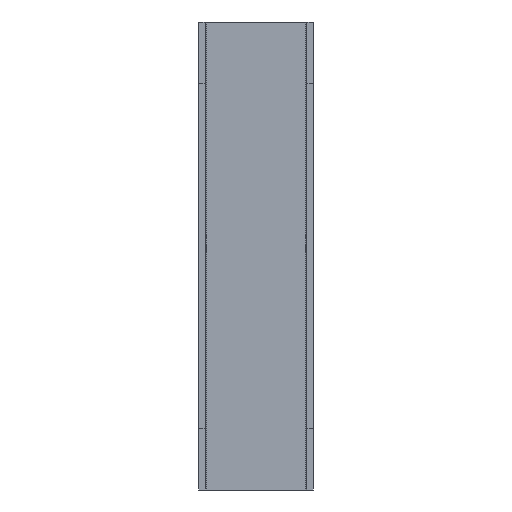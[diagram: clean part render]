
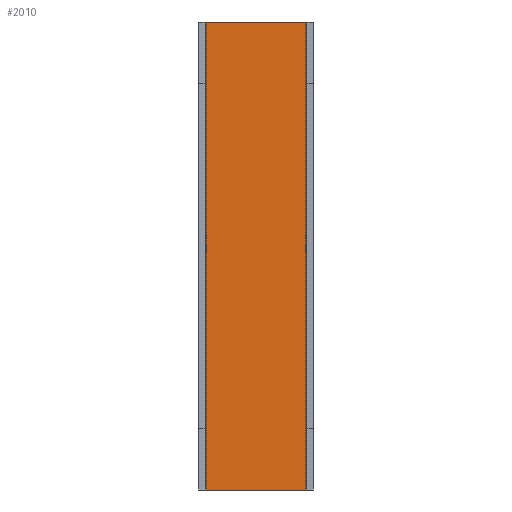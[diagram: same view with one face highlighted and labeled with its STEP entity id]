
A CAD part, front view. The second image highlights one B-rep face of the part: STEP entity #2010.
In plain terms, the highlighted planar face has unit normal (0, -1, 0).
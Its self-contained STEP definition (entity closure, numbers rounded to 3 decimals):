
#40 = DIRECTION ( 'NONE',  ( 1., 0., 0. ) ) ;
#55 = VERTEX_POINT ( 'NONE', #1784 ) ;
#267 = DIRECTION ( 'NONE',  ( 0., 0., -1. ) ) ;
#399 = VECTOR ( 'NONE', #40, 1000. ) ;
#420 = ORIENTED_EDGE ( 'NONE', *, *, #1182, .T. ) ;
#439 = VECTOR ( 'NONE', #2203, 1000. ) ;
#476 = CARTESIAN_POINT ( 'NONE',  ( -24.55, 17.55, 230. ) ) ;
#536 = AXIS2_PLACEMENT_3D ( 'NONE', #554, #1368, #2566 ) ;
#554 = CARTESIAN_POINT ( 'NONE',  ( -24.55, 17.55, 230. ) ) ;
#559 = ORIENTED_EDGE ( 'NONE', *, *, #2259, .F. ) ;
#754 = ORIENTED_EDGE ( 'NONE', *, *, #1200, .F. ) ;
#935 = EDGE_LOOP ( 'NONE', ( #420, #754, #559, #2016 ) ) ;
#957 = PLANE ( 'NONE',  #536 ) ;
#1021 = VERTEX_POINT ( 'NONE', #1250 ) ;
#1182 = EDGE_CURVE ( 'NONE', #1021, #1188, #1978, .T. ) ;
#1188 = VERTEX_POINT ( 'NONE', #2584 ) ;
#1200 = EDGE_CURVE ( 'NONE', #55, #1188, #1798, .T. ) ;
#1250 = CARTESIAN_POINT ( 'NONE',  ( -24.55, 17.55, 0. ) ) ;
#1337 = EDGE_CURVE ( 'NONE', #1873, #1021, #2427, .T. ) ;
#1354 = FACE_OUTER_BOUND ( 'NONE', #935, .T. ) ;
#1368 = DIRECTION ( 'NONE',  ( 0., 1., 0. ) ) ;
#1406 = LINE ( 'NONE', #2249, #399 ) ;
#1440 = VECTOR ( 'NONE', #2343, 1000. ) ;
#1784 = CARTESIAN_POINT ( 'NONE',  ( 24.55, 17.55, 230. ) ) ;
#1798 = LINE ( 'NONE', #2375, #439 ) ;
#1851 = VECTOR ( 'NONE', #267, 1000. ) ;
#1873 = VERTEX_POINT ( 'NONE', #476 ) ;
#1978 = LINE ( 'NONE', #2548, #1440 ) ;
#2010 = ADVANCED_FACE ( 'NONE', ( #1354 ), #957, .F. ) ;
#2016 = ORIENTED_EDGE ( 'NONE', *, *, #1337, .T. ) ;
#2057 = CARTESIAN_POINT ( 'NONE',  ( -24.55, 17.55, 230. ) ) ;
#2203 = DIRECTION ( 'NONE',  ( 0., 0., -1. ) ) ;
#2249 = CARTESIAN_POINT ( 'NONE',  ( -24.55, 17.55, 230. ) ) ;
#2259 = EDGE_CURVE ( 'NONE', #1873, #55, #1406, .T. ) ;
#2343 = DIRECTION ( 'NONE',  ( 1., 0., 0. ) ) ;
#2375 = CARTESIAN_POINT ( 'NONE',  ( 24.55, 17.55, 230. ) ) ;
#2427 = LINE ( 'NONE', #2057, #1851 ) ;
#2548 = CARTESIAN_POINT ( 'NONE',  ( -24.55, 17.55, 0. ) ) ;
#2566 = DIRECTION ( 'NONE',  ( 0., 0., 1. ) ) ;
#2584 = CARTESIAN_POINT ( 'NONE',  ( 24.55, 17.55, 0. ) ) ;
